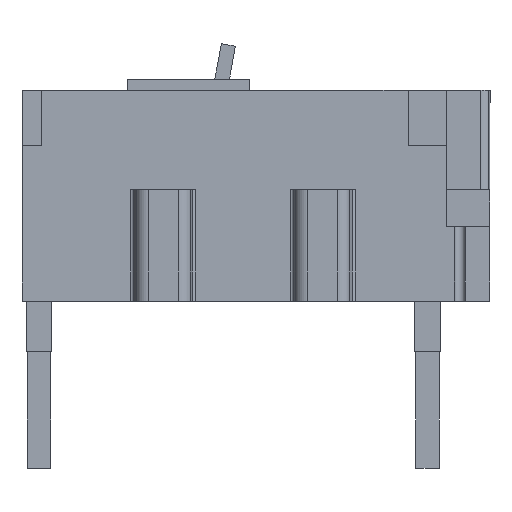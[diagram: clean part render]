
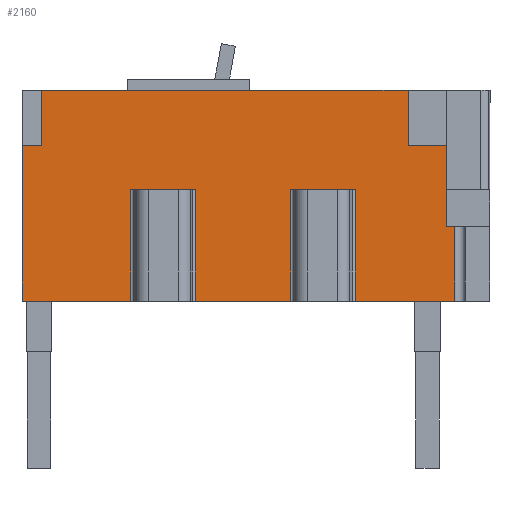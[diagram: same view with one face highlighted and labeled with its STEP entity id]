
A CAD part, left-side view. The second image highlights one B-rep face of the part: STEP entity #2160.
In plain terms, the highlighted planar face has unit normal (-1, 0, 0).
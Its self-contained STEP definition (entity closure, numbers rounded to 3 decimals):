
#269 = EDGE_CURVE ( 'NONE', #5833, #7152, #800, .T. ) ;
#296 = ORIENTED_EDGE ( 'NONE', *, *, #4294, .F. ) ;
#329 = PLANE ( 'NONE',  #2247 ) ;
#591 = CARTESIAN_POINT ( 'NONE',  ( -225., 63.042, 120.35 ) ) ;
#640 = VECTOR ( 'NONE', #6399, 1000. ) ;
#656 = ORIENTED_EDGE ( 'NONE', *, *, #3344, .F. ) ;
#800 = LINE ( 'NONE', #591, #4776 ) ;
#988 = LINE ( 'NONE', #6493, #6818 ) ;
#1025 = CARTESIAN_POINT ( 'NONE',  ( -225., 361., 120.35 ) ) ;
#1168 = DIRECTION ( 'NONE',  ( 0., 0., 1. ) ) ;
#1189 = ORIENTED_EDGE ( 'NONE', *, *, #4326, .F. ) ;
#1220 = VERTEX_POINT ( 'NONE', #4549 ) ;
#1253 = VERTEX_POINT ( 'NONE', #3466 ) ;
#1360 = DIRECTION ( 'NONE',  ( 0., 0., -1. ) ) ;
#1418 = CARTESIAN_POINT ( 'NONE',  ( -225., 63.042, 162.85 ) ) ;
#1444 = EDGE_CURVE ( 'NONE', #1253, #1941, #7214, .T. ) ;
#1557 = ORIENTED_EDGE ( 'NONE', *, *, #2126, .F. ) ;
#1583 = CARTESIAN_POINT ( 'NONE',  ( -225., 33.542, 162.85 ) ) ;
#1685 = ORIENTED_EDGE ( 'NONE', *, *, #1792, .F. ) ;
#1792 = EDGE_CURVE ( 'NONE', #1220, #6107, #3237, .T. ) ;
#1915 = DIRECTION ( 'NONE',  ( 0., -1., 0. ) ) ;
#1941 = VERTEX_POINT ( 'NONE', #5976 ) ;
#2126 = EDGE_CURVE ( 'NONE', #6446, #4532, #4740, .T. ) ;
#2160 = ADVANCED_FACE ( 'NONE', ( #4555 ), #329, .F. ) ;
#2228 = CARTESIAN_POINT ( 'NONE',  ( -225., 346.2, 120.35 ) ) ;
#2247 = AXIS2_PLACEMENT_3D ( 'NONE', #2625, #6533, #3170 ) ;
#2288 = CARTESIAN_POINT ( 'NONE',  ( -225., 0., 0. ) ) ;
#2331 = VECTOR ( 'NONE', #2617, 1000. ) ;
#2476 = CARTESIAN_POINT ( 'NONE',  ( -225., 361., 0. ) ) ;
#2514 = LINE ( 'NONE', #3668, #6799 ) ;
#2572 = DIRECTION ( 'NONE',  ( 0., -1., 0. ) ) ;
#2617 = DIRECTION ( 'NONE',  ( 0., -1., 0. ) ) ;
#2623 = VERTEX_POINT ( 'NONE', #4150 ) ;
#2625 = CARTESIAN_POINT ( 'NONE',  ( -225., 0., 0. ) ) ;
#2717 = LINE ( 'NONE', #2288, #6851 ) ;
#2761 = ORIENTED_EDGE ( 'NONE', *, *, #4199, .F. ) ;
#2842 = VECTOR ( 'NONE', #1915, 1000. ) ;
#3170 = DIRECTION ( 'NONE',  ( 0., 0., -1. ) ) ;
#3237 = LINE ( 'NONE', #1583, #5717 ) ;
#3344 = EDGE_CURVE ( 'NONE', #4617, #7152, #988, .T. ) ;
#3466 = CARTESIAN_POINT ( 'NONE',  ( -225., 27.25, 57.45 ) ) ;
#3623 = CARTESIAN_POINT ( 'NONE',  ( -225., 27.25, 70.959 ) ) ;
#3668 = CARTESIAN_POINT ( 'NONE',  ( -225., 346.2, 120.35 ) ) ;
#3809 = DIRECTION ( 'NONE',  ( 0., 1., 0. ) ) ;
#3832 = ORIENTED_EDGE ( 'NONE', *, *, #3862, .F. ) ;
#3862 = EDGE_CURVE ( 'NONE', #2623, #6446, #4967, .T. ) ;
#4003 = CARTESIAN_POINT ( 'NONE',  ( -225., 346.2, 162.85 ) ) ;
#4150 = CARTESIAN_POINT ( 'NONE',  ( -225., 361., 0. ) ) ;
#4199 = EDGE_CURVE ( 'NONE', #6107, #1253, #7146, .T. ) ;
#4240 = VECTOR ( 'NONE', #1360, 1000. ) ;
#4294 = EDGE_CURVE ( 'NONE', #4532, #4617, #2514, .T. ) ;
#4298 = CARTESIAN_POINT ( 'NONE',  ( -225., 33.542, 120.35 ) ) ;
#4326 = EDGE_CURVE ( 'NONE', #5833, #1220, #5147, .T. ) ;
#4413 = ORIENTED_EDGE ( 'NONE', *, *, #6587, .F. ) ;
#4532 = VERTEX_POINT ( 'NONE', #2228 ) ;
#4549 = CARTESIAN_POINT ( 'NONE',  ( -225., 33.596, 120.35 ) ) ;
#4555 = FACE_OUTER_BOUND ( 'NONE', #7024, .T. ) ;
#4579 = ORIENTED_EDGE ( 'NONE', *, *, #269, .T. ) ;
#4607 = ORIENTED_EDGE ( 'NONE', *, *, #1444, .F. ) ;
#4617 = VERTEX_POINT ( 'NONE', #4003 ) ;
#4740 = LINE ( 'NONE', #1025, #5458 ) ;
#4776 = VECTOR ( 'NONE', #1168, 1000. ) ;
#4821 = DIRECTION ( 'NONE',  ( 0., 0., 1. ) ) ;
#4967 = LINE ( 'NONE', #2476, #640 ) ;
#4988 = CARTESIAN_POINT ( 'NONE',  ( -225., 361., 120.35 ) ) ;
#5147 = LINE ( 'NONE', #4298, #2331 ) ;
#5307 = CARTESIAN_POINT ( 'NONE',  ( -225., 33.677, 57.45 ) ) ;
#5458 = VECTOR ( 'NONE', #7211, 1000. ) ;
#5717 = VECTOR ( 'NONE', #6645, 1000. ) ;
#5833 = VERTEX_POINT ( 'NONE', #5860 ) ;
#5860 = CARTESIAN_POINT ( 'NONE',  ( -225., 63.042, 120.35 ) ) ;
#5976 = CARTESIAN_POINT ( 'NONE',  ( -225., 27.25, 0. ) ) ;
#6107 = VERTEX_POINT ( 'NONE', #6940 ) ;
#6399 = DIRECTION ( 'NONE',  ( 0., 0., 1. ) ) ;
#6446 = VERTEX_POINT ( 'NONE', #4988 ) ;
#6493 = CARTESIAN_POINT ( 'NONE',  ( -225., 361., 162.85 ) ) ;
#6533 = DIRECTION ( 'NONE',  ( 1., 0., 0. ) ) ;
#6587 = EDGE_CURVE ( 'NONE', #1941, #2623, #2717, .T. ) ;
#6645 = DIRECTION ( 'NONE',  ( 0., 0.001, -1. ) ) ;
#6799 = VECTOR ( 'NONE', #4821, 1000. ) ;
#6818 = VECTOR ( 'NONE', #2572, 1000. ) ;
#6851 = VECTOR ( 'NONE', #3809, 1000. ) ;
#6940 = CARTESIAN_POINT ( 'NONE',  ( -225., 33.677, 57.45 ) ) ;
#7024 = EDGE_LOOP ( 'NONE', ( #4413, #4607, #2761, #1685, #1189, #4579, #656, #296, #1557, #3832 ) ) ;
#7146 = LINE ( 'NONE', #5307, #2842 ) ;
#7152 = VERTEX_POINT ( 'NONE', #1418 ) ;
#7211 = DIRECTION ( 'NONE',  ( 0., -1., 0. ) ) ;
#7214 = LINE ( 'NONE', #3623, #4240 ) ;
